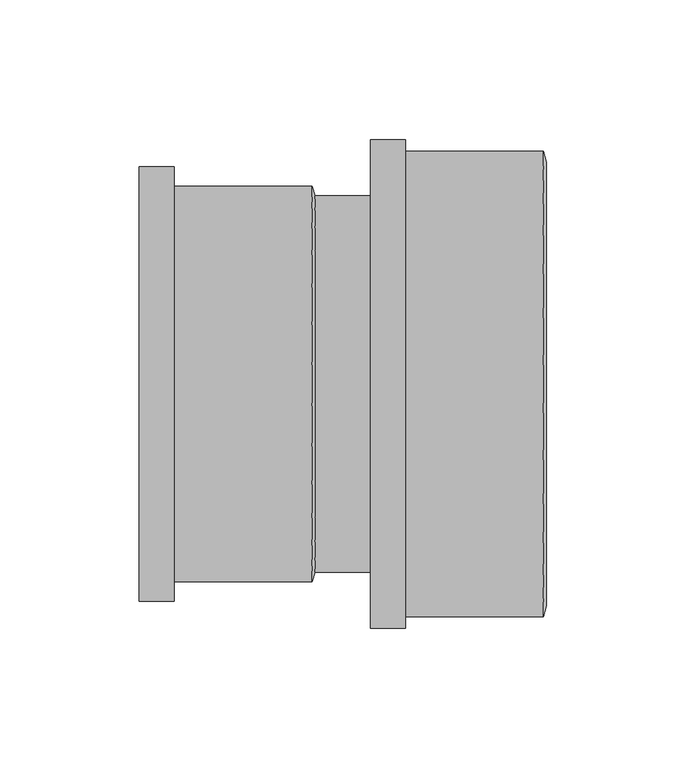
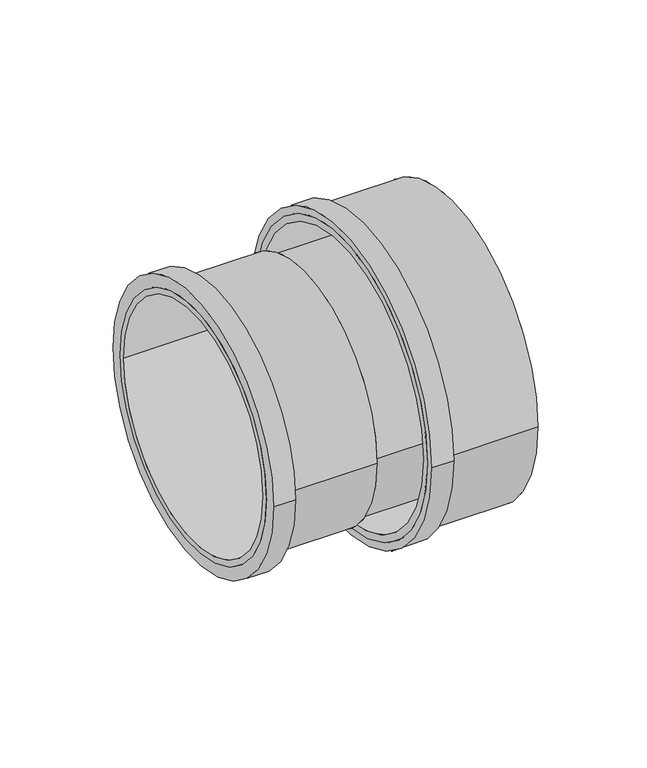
"""IFC4 building model written with IfcOpenShell, lengths in millimetres: pipe fitting geometry, Superdrain SKAM Single socket : Superdrain SKAM Single socket."""

from ifc_helpers import new_model, si_unit, point, frame, origin, origin_2d, place, context, project, spatial, polyline, circle_curve, trimmed, segment, composite_curve, outline, extrude, source, transform, mapped, element, save
from ifc_brep_helpers import plane_surface, revolved_surface, advanced_brep


def pipe_fitting_46e309c2(model_context):
    return source(origin(), model_context, "Body", "SolidModel", [
        extrude(outline(composite_curve([segment(trimmed(circle_curve(origin_2d(), 83.475), [point((-83.475, 0.0))], [point((83.475, 0.0))], False, "CARTESIAN"), True, "CONTINUOUS"), segment(trimmed(circle_curve(origin_2d(), 83.475), [point((83.475, 0.0))], [point((-83.475, 0.0))], False, "CARTESIAN"), True, "CONTINUOUS")], self_intersect=False), holes=[composite_curve([segment(trimmed(circle_curve(origin_2d(), 79.5), [point((-79.5, 0.0))], [point((79.5, 0.0))], True, "CARTESIAN"), True, "CONTINUOUS"), segment(trimmed(circle_curve(origin_2d(), 79.5), [point((79.5, 0.0))], [point((-79.5, 0.0))], True, "CARTESIAN"), True, "CONTINUOUS")], self_intersect=False)]), frame((17.0, 0.0, 0.0), z_axis=(1.0, 0.0, 0.0), x_axis=(0.0, 1.0, 0.0)), (0.0, 0.0, 1.0), 62.0),
        extrude(outline(composite_curve([segment(trimmed(circle_curve(origin_2d(), 87.64875), [point((-87.64875, 0.0))], [point((87.64875, 0.0))], False, "CARTESIAN"), True, "CONTINUOUS"), segment(trimmed(circle_curve(origin_2d(), 87.64875), [point((87.64875, 0.0))], [point((-87.64875, 0.0))], False, "CARTESIAN"), True, "CONTINUOUS")], self_intersect=False), holes=[composite_curve([segment(trimmed(circle_curve(origin_2d(), 79.5), [point((-79.5, 0.0))], [point((79.5, 0.0))], True, "CARTESIAN"), True, "CONTINUOUS"), segment(trimmed(circle_curve(origin_2d(), 79.5), [point((79.5, 0.0))], [point((-79.5, 0.0))], True, "CARTESIAN"), True, "CONTINUOUS")], self_intersect=False)]), frame((17.0, 0.0, 0.0), z_axis=(1.0, 0.0, 0.0), x_axis=(0.0, 1.0, 0.0)), (0.0, 0.0, 1.0), 12.4),
        advanced_brep(
        [(80.0, -79.5, 0.0), (80.0, 79.5, 0.0), (79.0, -83.475, 0.0), (79.0, 83.475, 0.0)],
        [
            (0, 1, circle_curve(frame((80.0, 0.0, 0.0), z_axis=(1.0, 0.0, 0.0), x_axis=(0.0, -1.0, 0.0)), 79.5)),
            (1, 0, circle_curve(frame((80.0, 0.0, 0.0), z_axis=(1.0, 0.0, 0.0), x_axis=(0.0, 1.0, 0.0)), 79.5)),
            (2, 3, circle_curve(frame((79.0, 0.0, 0.0), z_axis=(-1.0, 0.0, 0.0), x_axis=(0.0, 1.0, 0.0)), 83.475)),
            (3, 2, circle_curve(frame((79.0, 0.0, 0.0), z_axis=(-1.0, 0.0, 0.0), x_axis=(0.0, -1.0, 0.0)), 83.475)),
            (3, 1),
            (0, 2),
        ],
        [
            plane_surface(frame((80.0, 0.0, 0.0), z_axis=(1.0, 0.0, 0.0), x_axis=(0.0, 0.0, -1.0))),
            plane_surface(frame((79.0, 0.0, 0.0), z_axis=(-1.0, 0.0, 0.0), x_axis=(0.0, 0.0, -1.0))),
            revolved_surface(polyline([(80.0, -79.49999999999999, 0.0), (79.0, -83.475, 0.0)]), (100.0, 0.0, 0.0), (-1.0, 0.0, 0.0)),
            revolved_surface(polyline([(80.0, 79.49999999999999, 0.0), (79.0, 83.475, 0.0)]), (100.0, 0.0, 0.0), (-1.0, 0.0, 0.0)),
        ],
        [
            (0, [[1, 2]]),
            (1, [[3, 4]]),
            (2, [[-4, 5, -1, 6]]),
            (3, [[-3, -6, -2, -5]]),
        ],
    ),
        extrude(outline(composite_curve([segment(trimmed(circle_curve(origin_2d(), 70.875), [point((-70.875, 0.0))], [point((70.875, 0.0))], False, "CARTESIAN"), True, "CONTINUOUS"), segment(trimmed(circle_curve(origin_2d(), 70.875), [point((70.875, 0.0))], [point((-70.875, 0.0))], False, "CARTESIAN"), True, "CONTINUOUS")], self_intersect=False), holes=[composite_curve([segment(trimmed(circle_curve(origin_2d(), 67.5), [point((-67.5, 0.0))], [point((67.5, 0.0))], True, "CARTESIAN"), True, "CONTINUOUS"), segment(trimmed(circle_curve(origin_2d(), 67.5), [point((67.5, 0.0))], [point((-67.5, 0.0))], True, "CARTESIAN"), True, "CONTINUOUS")], self_intersect=False)]), frame((-66.0, 0.0, 0.0), z_axis=(1.0, 0.0, 0.0), x_axis=(0.0, 1.0, 0.0)), (0.0, 0.0, 1.0), 62.0),
        extrude(outline(composite_curve([segment(trimmed(circle_curve(origin_2d(), 77.9625), [point((-77.9625, 0.0))], [point((77.9625, 0.0))], False, "CARTESIAN"), True, "CONTINUOUS"), segment(trimmed(circle_curve(origin_2d(), 77.9625), [point((77.9625, 0.0))], [point((-77.9625, 0.0))], False, "CARTESIAN"), True, "CONTINUOUS")], self_intersect=False), holes=[composite_curve([segment(trimmed(circle_curve(origin_2d(), 67.5), [point((-67.5, 0.0))], [point((67.5, 0.0))], True, "CARTESIAN"), True, "CONTINUOUS"), segment(trimmed(circle_curve(origin_2d(), 67.5), [point((67.5, 0.0))], [point((-67.5, 0.0))], True, "CARTESIAN"), True, "CONTINUOUS")], self_intersect=False)]), frame((-66.0, 0.0, 0.0), z_axis=(1.0, 0.0, 0.0), x_axis=(0.0, 1.0, 0.0)), (0.0, 0.0, 1.0), 12.4),
        advanced_brep(
        [(-3.0, -67.5, 0.0), (-3.0, 67.5, 0.0), (-4.0, -70.875, 0.0), (-4.0, 70.875, 0.0)],
        [
            (0, 1, circle_curve(frame((-3.0, 0.0, 0.0), z_axis=(1.0, 0.0, 0.0), x_axis=(0.0, -1.0, 0.0)), 67.5)),
            (1, 0, circle_curve(frame((-3.0, 0.0, 0.0), z_axis=(1.0, 0.0, 0.0), x_axis=(0.0, 1.0, 0.0)), 67.5)),
            (2, 3, circle_curve(frame((-4.0, 0.0, 0.0), z_axis=(-1.0, 0.0, 0.0), x_axis=(0.0, 1.0, 0.0)), 70.875)),
            (3, 2, circle_curve(frame((-4.0, 0.0, 0.0), z_axis=(-1.0, 0.0, 0.0), x_axis=(0.0, -1.0, 0.0)), 70.875)),
            (3, 1),
            (0, 2),
        ],
        [
            plane_surface(frame((-3.0, 0.0, 0.0), z_axis=(1.0, 0.0, 0.0), x_axis=(0.0, 0.0, -1.0))),
            plane_surface(frame((-4.0, 0.0, 0.0), z_axis=(-1.0, 0.0, 0.0), x_axis=(0.0, 0.0, -1.0))),
            revolved_surface(polyline([(-3.0, -67.5, 0.0), (-4.0, -70.875, 0.0)]), (17.0, 0.0, 0.0), (-1.0, 0.0, 0.0)),
            revolved_surface(polyline([(-3.0, 67.5, 0.0), (-4.0, 70.875, 0.0)]), (17.0, 0.0, 0.0), (-1.0, 0.0, 0.0)),
        ],
        [
            (0, [[1, 2]]),
            (1, [[3, 4]]),
            (2, [[-4, 5, -1, 6]]),
            (3, [[-3, -6, -2, -5]]),
        ],
    ),
        extrude(outline(composite_curve([segment(trimmed(circle_curve(origin_2d(), 67.5), [point((-67.5, 0.0))], [point((67.5, 0.0))], False, "CARTESIAN"), True, "CONTINUOUS"), segment(trimmed(circle_curve(origin_2d(), 67.5), [point((67.5, 0.0))], [point((-67.5, 0.0))], False, "CARTESIAN"), True, "CONTINUOUS")], self_intersect=False)), frame((-4.0, 0.0, 0.0), z_axis=(1.0, 0.0, 0.0), x_axis=(0.0, 1.0, 0.0)), (0.0, 0.0, 1.0), 83.0),
    ])


if __name__ == "__main__":
    model = new_model("IFC4")
    model_context = context("Model", 3, world=origin())
    ifc_project = project(units=[si_unit("LENGTHUNIT", "METRE", prefix="MILLI")], contexts=[model_context])
    site = spatial("IfcSite", under=ifc_project)
    building = spatial("IfcBuilding", under=site)
    placement = place(None, origin())
    pipe_fitting_shape = pipe_fitting_46e309c2(model_context)
    element("IfcPipeFitting", 1, ObjectType="Superdrain SKAM Single socket : Superdrain SKAM Single socket", at=placement, inside=building, context=model_context, shape_type="MappedRepresentation", body=[
        mapped(pipe_fitting_shape, transform((0.0, 0.0, 0.0), x_axis=(1.0, 0.0, 0.0), y_axis=(0.0, 1.0, 0.0), z_axis=(0.0, 0.0, 1.0))),
    ])
    save(model, "model.ifc")
